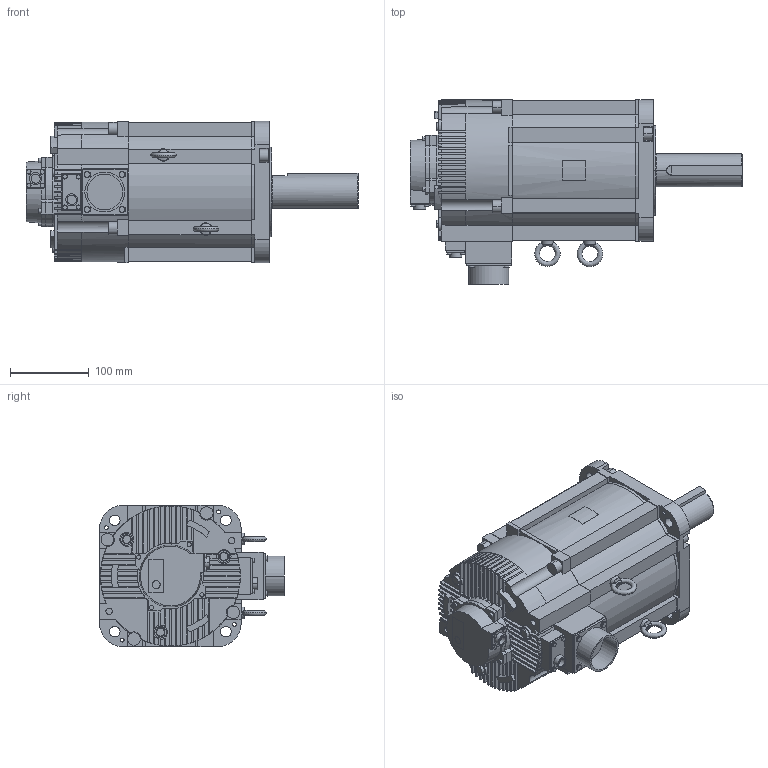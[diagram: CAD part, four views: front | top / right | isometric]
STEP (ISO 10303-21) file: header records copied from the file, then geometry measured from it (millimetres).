
FILE_DESCRIPTION( (''), '2;1');
FILE_NAME ('SGMXG-75AUA6CC2.stp','2022-03-02T11:35:45',(''),(''),'spGate 15.6.6','','');
FILE_SCHEMA (('AUTOMOTIVE_DESIGN'));
Length unit declared in the file: millimetre
Products named in the file (3): Assembly; SGMXG-75AUA6CC2-prt0; SGMXG-75AUA6CC2-prt1
Assembly tree (2 placements, depth 2):
  Assembly
    SGMXG-75AUA6CC2-prt0
    SGMXG-75AUA6CC2-prt1
Bounding box: 422.2 x 235 x 180 mm (x, y, z)
Volume: 7695912.8 mm3; surface area: 347573 mm2
Topology: 2 solids, 2 shells, 869 faces, 2359 edges, 1556 vertices
Faces by surface type: plane 551, cylinder 246, bspline 72
Entity records: 47114 total; most frequent: CARTESIAN_POINT 6525, ORIENTED_EDGE 4718, DIRECTION 4518, COLOUR_RGB 3230, PRESENTATION_STYLE_ASSIGNMENT 3230, STYLED_ITEM 3230, EDGE_CURVE 2359, DRAUGHTING_PRE_DEFINED_CURVE_FONT 2359
